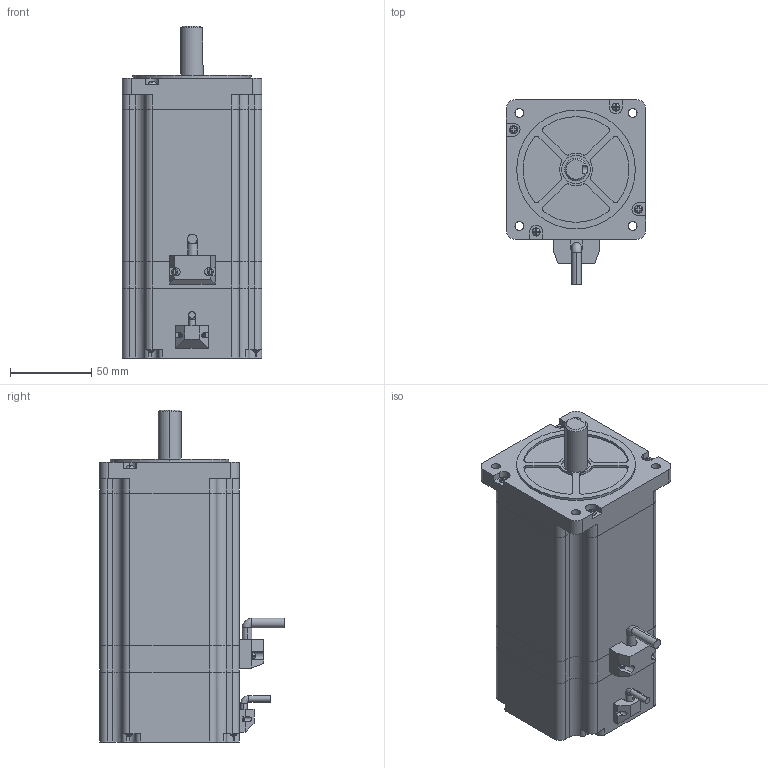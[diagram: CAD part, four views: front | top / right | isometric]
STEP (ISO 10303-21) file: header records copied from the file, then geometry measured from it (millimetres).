
FILE_DESCRIPTION (( 'STEP AP214' ), '1' );
FILE_NAME ('86-129-017.STEP', '2021-08-24T07:24:43', ( 'HP' ), ( 'CZLH' ), 'SwSTEP 2.0', 'SolidWorks 2012', '' );
FILE_SCHEMA (( 'AUTOMOTIVE_DESIGN' ));
Length unit declared in the file: millimetre
Products named in the file (1): 86-129-017
Bounding box: 85.8 x 113.3 x 204.2 mm (x, y, z)
Surface area: 89300.9 mm2 (no closed solid volume)
Topology: 0 solids, 15 shells, 374 faces, 1211 edges, 829 vertices
Faces by surface type: plane 209, cylinder 138, sphere 22, torus 3, cone 2
Entity records: 17473 total; most frequent: CARTESIAN_POINT 2445, DIRECTION 2443, ORIENTED_EDGE 2067, EDGE_CURVE 1199, AXIS2_PLACEMENT_3D 875, VERTEX_POINT 825, LINE 693, VECTOR 693
